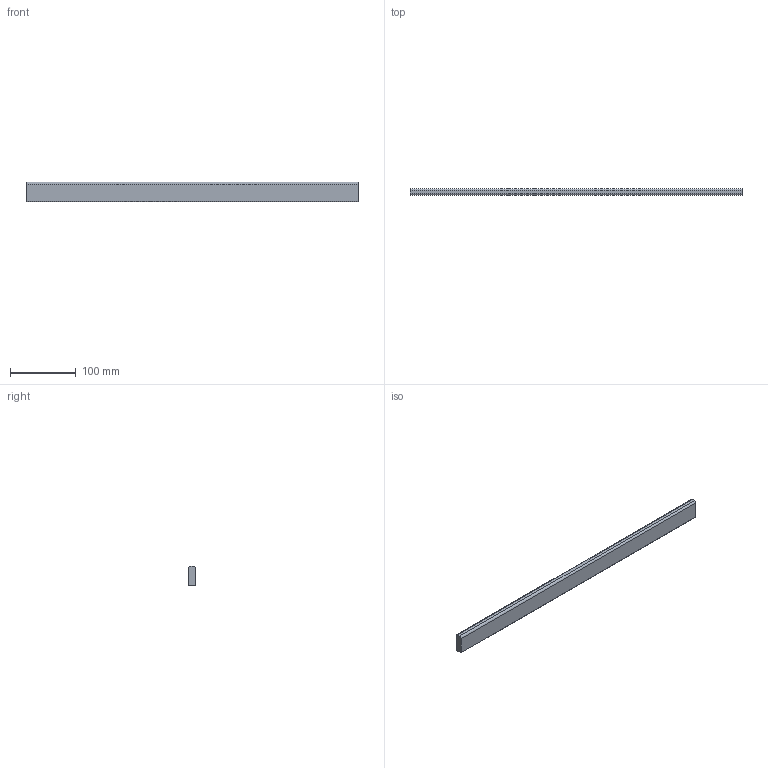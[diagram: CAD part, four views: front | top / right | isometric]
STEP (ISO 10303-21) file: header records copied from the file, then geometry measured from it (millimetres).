
FILE_DESCRIPTION (( 'STEP AP214' ), '1' );
FILE_NAME ('_Querreling_KAB-600_KS-19.step', '2010-08-26T14:58:36', ( 'grass' ), ( '' ), 'SwSTEP 2.0', 'SolidWorks 2009', '' );
FILE_SCHEMA (( 'AUTOMOTIVE_DESIGN' ));
Length unit declared in the file: millimetre
Products named in the file (1): _Querreling_KAB-600_KS-19
Bounding box: 506.5 x 10.5 x 30 mm (x, y, z)
Volume: 157373.6 mm3; surface area: 39908.8 mm2
Topology: 1 solids, 1 shells, 10 faces, 24 edges, 16 vertices
Faces by surface type: plane 6, cylinder 4
Entity records: 330 total; most frequent: DIRECTION 54, CARTESIAN_POINT 51, ORIENTED_EDGE 48, EDGE_CURVE 24, AXIS2_PLACEMENT_3D 19, VECTOR 16, LINE 16, VERTEX_POINT 16
